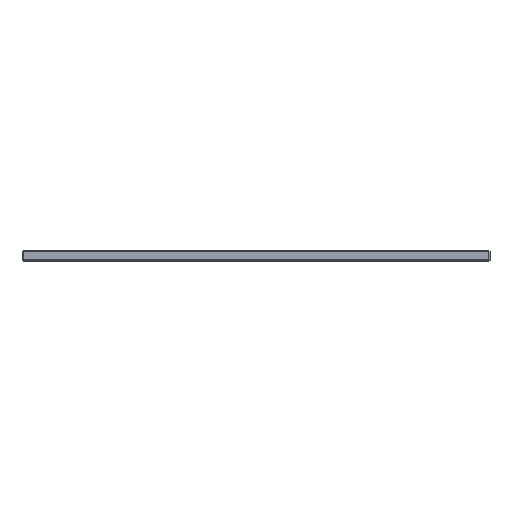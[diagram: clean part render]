
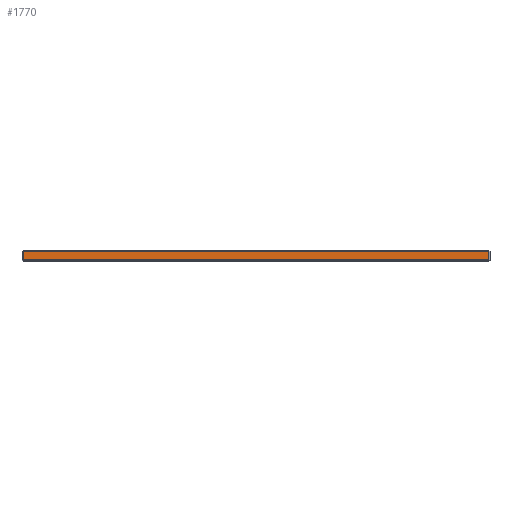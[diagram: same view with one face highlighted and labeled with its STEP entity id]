
A CAD part, top view. The second image highlights one B-rep face of the part: STEP entity #1770.
In plain terms, the highlighted planar face has unit normal (0, 0, 1).
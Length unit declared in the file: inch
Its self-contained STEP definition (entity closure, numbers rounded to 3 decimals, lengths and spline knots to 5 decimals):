
#15 = DIRECTION ( 'NONE',  ( -1., 0., 0. ) ) ;
#77 = EDGE_CURVE ( 'NONE', #1016, #1479, #1043, .T. ) ;
#89 = VECTOR ( 'NONE', #1084, 39.37008 ) ;
#96 = CARTESIAN_POINT ( 'NONE',  ( -11.6375, 0.05, 8.875 ) ) ;
#248 = ORIENTED_EDGE ( 'NONE', *, *, #786, .T. ) ;
#293 = VERTEX_POINT ( 'NONE', #701 ) ;
#327 = CARTESIAN_POINT ( 'NONE',  ( -11.6875, 0.5, 8.875 ) ) ;
#397 = CARTESIAN_POINT ( 'NONE',  ( -11.6375, 0.45, 8.875 ) ) ;
#542 = ORIENTED_EDGE ( 'NONE', *, *, #1978, .T. ) ;
#553 = FACE_OUTER_BOUND ( 'NONE', #971, .T. ) ;
#591 = EDGE_CURVE ( 'NONE', #1479, #293, #1728, .T. ) ;
#658 = PLANE ( 'NONE',  #810 ) ;
#701 = CARTESIAN_POINT ( 'NONE',  ( 11.6375, 0.05, 8.875 ) ) ;
#786 = EDGE_CURVE ( 'NONE', #293, #1656, #1533, .T. ) ;
#810 = AXIS2_PLACEMENT_3D ( 'NONE', #327, #963, #1466 ) ;
#903 = CARTESIAN_POINT ( 'NONE',  ( -11.6375, 0.5, 8.875 ) ) ;
#929 = LINE ( 'NONE', #1927, #1901 ) ;
#934 = VECTOR ( 'NONE', #1573, 39.37008 ) ;
#963 = DIRECTION ( 'NONE',  ( 0., 0., -1. ) ) ;
#971 = EDGE_LOOP ( 'NONE', ( #1052, #248, #542, #1267 ) ) ;
#1016 = VERTEX_POINT ( 'NONE', #397 ) ;
#1043 = LINE ( 'NONE', #903, #934 ) ;
#1052 = ORIENTED_EDGE ( 'NONE', *, *, #591, .T. ) ;
#1084 = DIRECTION ( 'NONE',  ( 1., 0., 0. ) ) ;
#1101 = CARTESIAN_POINT ( 'NONE',  ( 11.6375, 0.45, 8.875 ) ) ;
#1108 = VECTOR ( 'NONE', #1465, 39.37008 ) ;
#1267 = ORIENTED_EDGE ( 'NONE', *, *, #77, .T. ) ;
#1465 = DIRECTION ( 'NONE',  ( 0., 1., 0. ) ) ;
#1466 = DIRECTION ( 'NONE',  ( -1., 0., 0. ) ) ;
#1479 = VERTEX_POINT ( 'NONE', #96 ) ;
#1533 = LINE ( 'NONE', #1765, #1108 ) ;
#1551 = CARTESIAN_POINT ( 'NONE',  ( -11.6875, 0.05, 8.875 ) ) ;
#1573 = DIRECTION ( 'NONE',  ( 0., -1., 0. ) ) ;
#1656 = VERTEX_POINT ( 'NONE', #1101 ) ;
#1728 = LINE ( 'NONE', #1551, #89 ) ;
#1765 = CARTESIAN_POINT ( 'NONE',  ( 11.6375, 0.5, 8.875 ) ) ;
#1770 = ADVANCED_FACE ( 'NONE', ( #553 ), #658, .F. ) ;
#1901 = VECTOR ( 'NONE', #15, 39.37008 ) ;
#1927 = CARTESIAN_POINT ( 'NONE',  ( -11.6875, 0.45, 8.875 ) ) ;
#1978 = EDGE_CURVE ( 'NONE', #1656, #1016, #929, .T. ) ;
